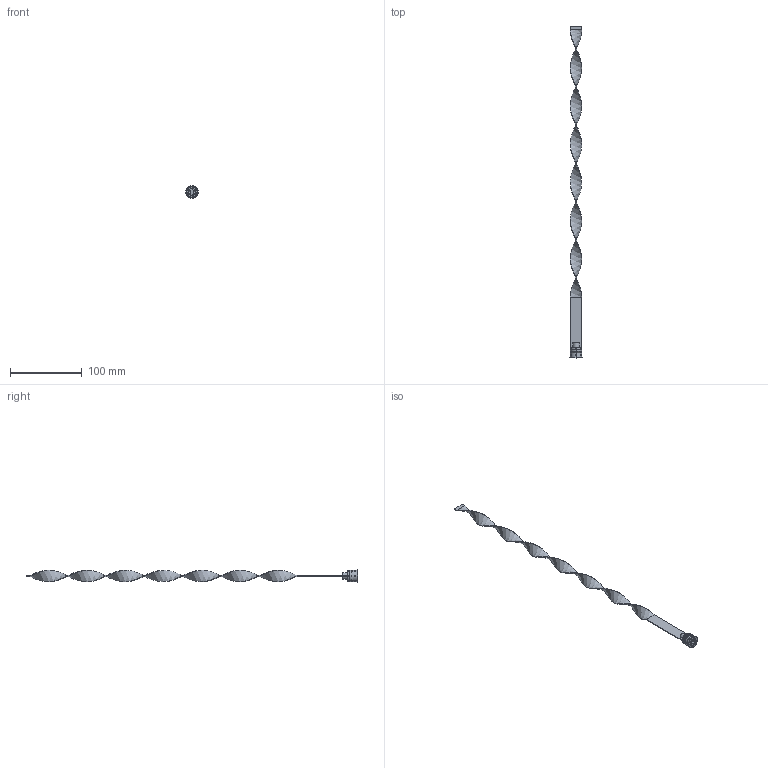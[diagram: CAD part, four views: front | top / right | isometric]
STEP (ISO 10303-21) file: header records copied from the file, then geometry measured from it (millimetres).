
FILE_DESCRIPTION (( 'STEP AP203' ), '1' );
FILE_NAME ('RLS-16Fx450.STEP', '2015-12-09T14:59:12', ( 'Balzi' ), ( '' ), 'SwSTEP 2.0', 'SolidWorks 2015', '' );
FILE_SCHEMA (( 'CONFIG_CONTROL_DESIGN' ));
Length unit declared in the file: millimetre
Products named in the file (1): RLS-16Fx450
Bounding box: 17.5 x 464 x 17.5 mm (x, y, z)
Volume: 10041.3 mm3; surface area: 17319.6 mm2
Topology: 1 solids, 1 shells, 83 faces, 193 edges, 117 vertices
Faces by surface type: plane 35, cone 19, cylinder 17, torus 8, bspline 4
Entity records: 5273 total; most frequent: CARTESIAN_POINT 3316, DIRECTION 402, ORIENTED_EDGE 386, EDGE_CURVE 193, AXIS2_PLACEMENT_3D 151, VERTEX_POINT 117, VECTOR 100, LINE 100
